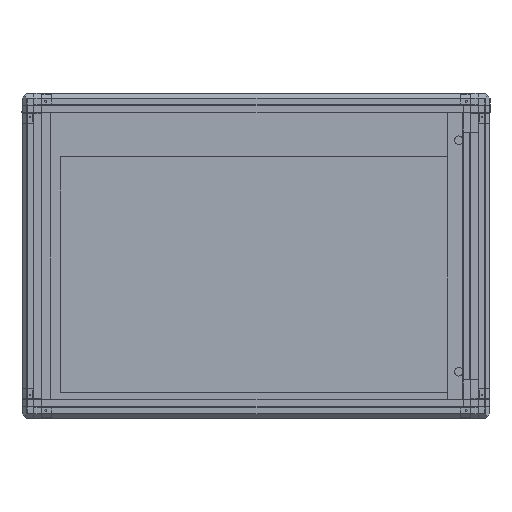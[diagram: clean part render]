
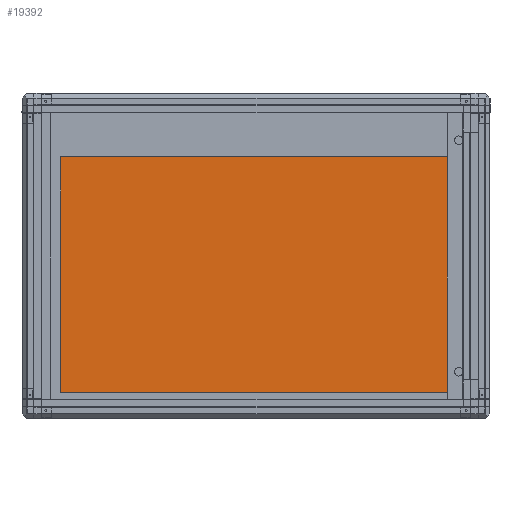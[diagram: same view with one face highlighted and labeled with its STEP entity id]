
A CAD part, left-side view. The second image highlights one B-rep face of the part: STEP entity #19392.
In plain terms, the highlighted planar face has unit normal (-1, 0, 0) as drawn and (0, 0, -1) by its records, which use the part's own axes.
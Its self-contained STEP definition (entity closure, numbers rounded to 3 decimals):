
#2670=FACE_OUTER_BOUND('',#3774,.T.);
#3774=EDGE_LOOP('',(#12887,#12888,#12889,#12890));
#5108=LINE('',#28942,#6534);
#5110=LINE('',#28946,#6536);
#5112=LINE('',#28950,#6538);
#5114=LINE('',#28953,#6540);
#6534=VECTOR('',#23098,1000.);
#6536=VECTOR('',#23102,1000.);
#6538=VECTOR('',#23106,1000.);
#6540=VECTOR('',#23110,1000.);
#7951=VERTEX_POINT('',#28939);
#7952=VERTEX_POINT('',#28941);
#7953=VERTEX_POINT('',#28945);
#7954=VERTEX_POINT('',#28949);
#9908=EDGE_CURVE('',#7952,#7951,#5108,.T.);
#9910=EDGE_CURVE('',#7953,#7952,#5110,.T.);
#9912=EDGE_CURVE('',#7954,#7953,#5112,.T.);
#9914=EDGE_CURVE('',#7951,#7954,#5114,.T.);
#12887=ORIENTED_EDGE('',*,*,#9908,.T.);
#12888=ORIENTED_EDGE('',*,*,#9914,.T.);
#12889=ORIENTED_EDGE('',*,*,#9912,.T.);
#12890=ORIENTED_EDGE('',*,*,#9910,.T.);
#18714=PLANE('',#20853);
#19392=ADVANCED_FACE('',(#2670),#18714,.F.);
#20853=AXIS2_PLACEMENT_3D('',#28954,#23111,#23112);
#23098=DIRECTION('',(0.,-1.,0.));
#23102=DIRECTION('',(1.,0.,0.));
#23106=DIRECTION('',(0.,1.,0.));
#23110=DIRECTION('',(-1.,0.,0.));
#23111=DIRECTION('center_axis',(0.,0.,1.));
#23112=DIRECTION('ref_axis',(1.,0.,0.));
#28939=CARTESIAN_POINT('',(347.5,-500.,2.));
#28941=CARTESIAN_POINT('',(347.5,500.,2.));
#28942=CARTESIAN_POINT('',(347.5,-500.,2.));
#28945=CARTESIAN_POINT('',(-252.5,500.,2.));
#28946=CARTESIAN_POINT('',(347.5,500.,2.));
#28949=CARTESIAN_POINT('',(-252.5,-500.,2.));
#28950=CARTESIAN_POINT('',(-252.5,-500.,2.));
#28953=CARTESIAN_POINT('',(347.5,-500.,2.));
#28954=CARTESIAN_POINT('Origin',(0.,0.,2.));
